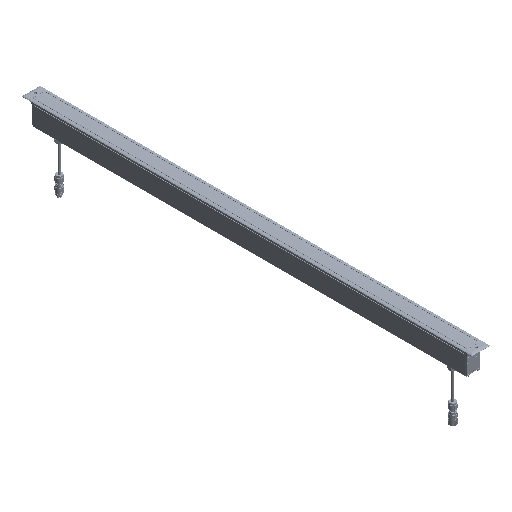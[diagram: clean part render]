
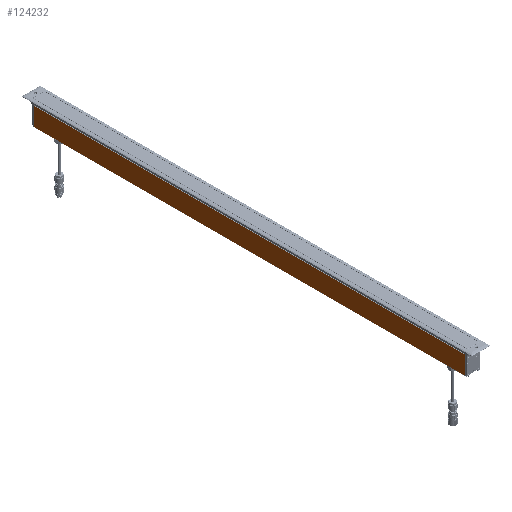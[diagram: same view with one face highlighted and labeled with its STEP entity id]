
A CAD part, isometric view. The second image highlights one B-rep face of the part: STEP entity #124232.
In plain terms, the highlighted planar face has unit normal (-1, 0, 0).
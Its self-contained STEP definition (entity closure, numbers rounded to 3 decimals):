
#12277=LINE('',#312249,#21131);
#12538=LINE('',#313129,#21392);
#12539=LINE('',#313131,#21393);
#12540=LINE('',#313133,#21394);
#21131=VECTOR('',#194417,1000.);
#21392=VECTOR('',#195100,1000.);
#21393=VECTOR('',#195101,1000.);
#21394=VECTOR('',#195102,1000.);
#40479=ORIENTED_EDGE('',*,*,#71616,.T.);
#40480=ORIENTED_EDGE('',*,*,#71205,.T.);
#40481=ORIENTED_EDGE('',*,*,#71617,.T.);
#40482=ORIENTED_EDGE('',*,*,#71618,.T.);
#71205=EDGE_CURVE('',#87942,#87941,#12277,.T.);
#71616=EDGE_CURVE('',#88262,#87942,#12538,.F.);
#71617=EDGE_CURVE('',#87941,#88263,#12539,.T.);
#71618=EDGE_CURVE('',#88263,#88262,#12540,.T.);
#87941=VERTEX_POINT('',#312248);
#87942=VERTEX_POINT('',#312250);
#88262=VERTEX_POINT('',#313130);
#88263=VERTEX_POINT('',#313132);
#105199=EDGE_LOOP('',(#40479,#40480,#40481,#40482));
#113221=FACE_BOUND('',#105199,.T.);
#119156=PLANE('',#173634);
#124232=ADVANCED_FACE('',(#113221),#119156,.F.);
#173634=AXIS2_PLACEMENT_3D('',#313128,#195098,#195099);
#194417=DIRECTION('',(0.,0.,-1.));
#195098=DIRECTION('',(1.,0.,0.));
#195099=DIRECTION('',(0.,0.,1.));
#195100=DIRECTION('',(0.,-1.,0.));
#195101=DIRECTION('',(0.,-1.,0.));
#195102=DIRECTION('',(0.,0.,1.));
#312248=CARTESIAN_POINT('',(-22.5,738.,-74.6));
#312249=CARTESIAN_POINT('',(-22.5,738.,-76.1));
#312250=CARTESIAN_POINT('',(-22.5,738.,-12.136));
#313128=CARTESIAN_POINT('',(-22.5,744.,-76.1));
#313129=CARTESIAN_POINT('',(-22.5,744.,-12.136));
#313130=CARTESIAN_POINT('',(-22.5,-739.,-12.136));
#313131=CARTESIAN_POINT('',(-22.5,744.,-74.6));
#313132=CARTESIAN_POINT('',(-22.5,-739.,-74.6));
#313133=CARTESIAN_POINT('',(-22.5,-739.,-76.1));
